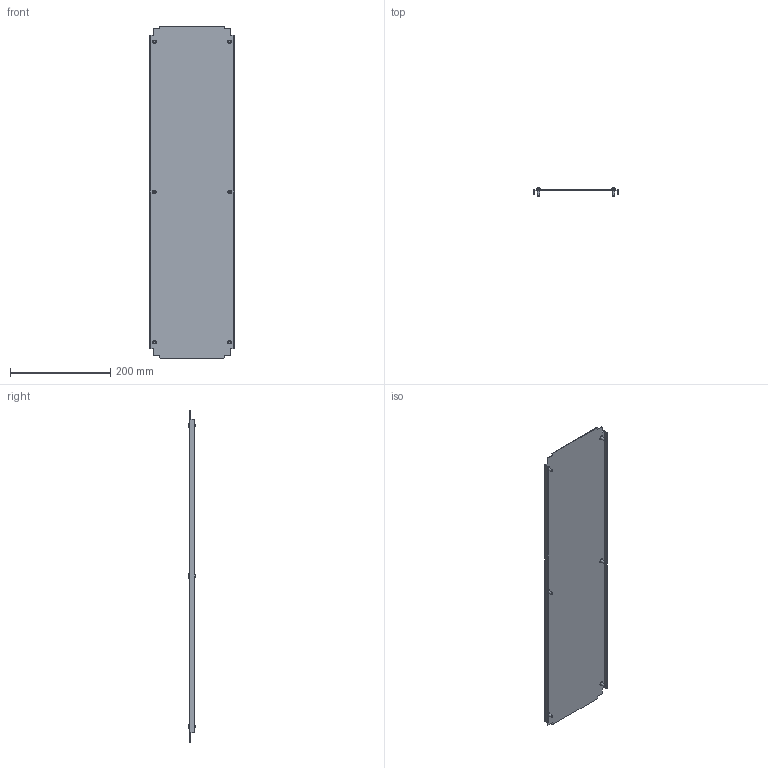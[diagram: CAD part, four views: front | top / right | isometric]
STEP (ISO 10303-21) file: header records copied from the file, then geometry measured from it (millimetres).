
FILE_DESCRIPTION (( 'STEP AP203' ), '1' );
FILE_NAME ('R5N1BP38.STEP', '2025-02-21T13:47:29', ( '' ), ( '' ), 'SwSTEP 2.0', 'SolidWorks 2022', '' );
FILE_SCHEMA (( 'CONFIG_CONTROL_DESIGN' ));
Length unit declared in the file: millimetre
Products named in the file (3): M5x12 DIN 7500 C Torx Zinc_stright; R5N1BP38; RB.1923.00.00.0_-02
Assembly tree (7 placements, depth 2):
  R5N1BP38
    RB.1923.00.00.0_-02
    M5x12 DIN 7500 C Torx Zinc_stright  x6
Bounding box: 168 x 15.56 x 662 mm (x, y, z)
Volume: 181936 mm3; surface area: 244469.4 mm2
Topology: 7 solids, 7 shells, 166 faces, 384 edges, 238 vertices
Faces by surface type: plane 106, cylinder 24, torus 12, cone 12, sphere 6, bspline 6
Full cylindrical faces by diameter (mm): 5 x6, 9.5 x6
Entity records: 3297 total; most frequent: CARTESIAN_POINT 674, ORIENTED_EDGE 448, DIRECTION 444, EDGE_CURVE 224, VECTOR 180, LINE 180, VERTEX_POINT 150, AXIS2_PLACEMENT_3D 132
